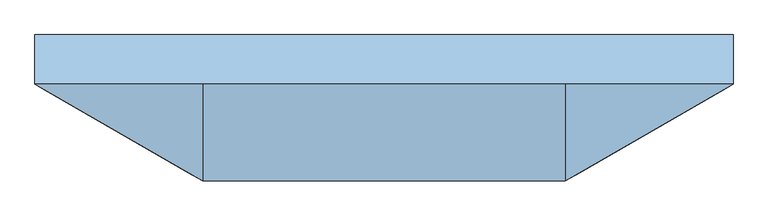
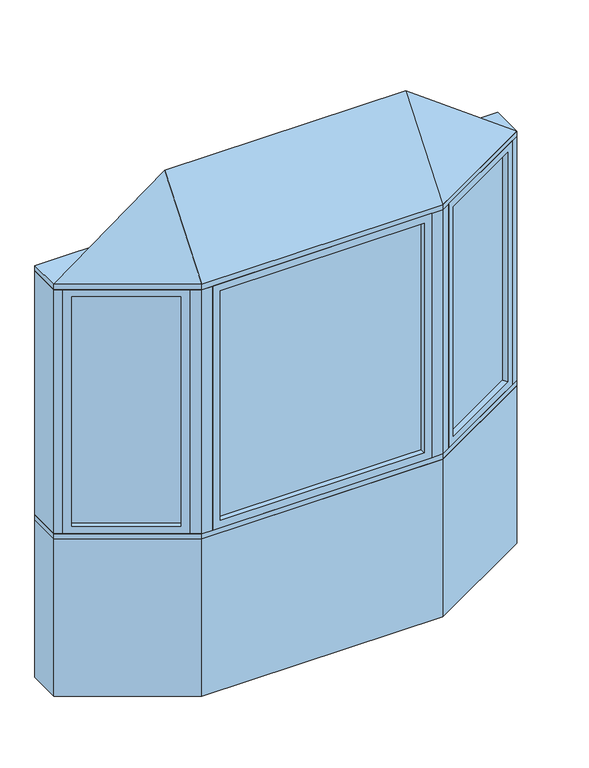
"""IFC4 building model written with IfcOpenShell, lengths in millimetres: window geometry, Pollard_Windows_Tudor Casement Bows and Bays : AML-BAY 30 AFR0612-10-500."""

from ifc_helpers import new_model, si_unit, frame, origin, origin_with_axes, place, context, project, spatial, polyline, outline, extrude, faceted_brep, source, transform, mapped, element, save


def window_daee31c8(model_context):
    return source(origin(), model_context, "Body", "SolidModel", [
        extrude(outline(polyline([(1013.112102, -82.0482469), (610.2320119, -314.6511754), (607.6920119, -310.2517664), (1010.572102, -77.6488379), (1013.112102, -82.0482469)])), frame((0.0, 0.0, 823.1628), z_axis=(0.0, 0.0, 1.0), x_axis=(1.0, 0.0, 0.0)), (0.0, 0.0, 1.0), 1153.6704),
        faceted_brep([(1002.1135794, -88.3982469, 835.8628), (1014.8135794, -110.3952922, 835.8628), (1014.8135794, -110.3952922, 1964.1332), (1002.1135794, -88.3982469, 1964.1332), (1010.572102, -77.6488379, 823.1628), (1013.112102, -82.0482469, 823.1628), (1013.112102, -82.0482469, 1976.8332), (1010.572102, -77.6488379, 1976.8332), (986.8735794, -62.0017926, 835.8628), (999.5735794, -83.9988379, 835.8628), (999.5735794, -83.9988379, 1964.1332), (986.8735794, -62.0017926, 1964.1332), (1045.8734073, -92.4628922, 799.998), (1017.9334073, -44.0693926, 799.998), (1017.9334073, -44.0693926, 1999.998), (1045.8734073, -92.4628922, 1999.998), (633.9305346, -330.2982207, 1964.1332), (621.2305346, -308.3011754, 1964.1332), (610.2320119, -314.6511754, 1976.8332), (607.6920119, -310.2517664, 1976.8332), (618.6905346, -303.9017664, 1964.1332), (605.9905346, -281.9047211, 1964.1332), (574.9307067, -299.8371211, 1999.998), (602.8707067, -348.2306207, 1999.998), (633.9305346, -330.2982207, 835.8628), (621.2305346, -308.3011754, 835.8628), (610.2320119, -314.6511754, 823.1628), (607.6920119, -310.2517664, 823.1628), (618.6905346, -303.9017664, 835.8628), (605.9905346, -281.9047211, 835.8628), (574.9307067, -299.8371211, 799.998), (602.8707067, -348.2306207, 799.998)], [[[0, 1, 2, 3]], [[4, 5, 6, 7]], [[8, 9, 10, 11]], [[12, 13, 14, 15]], [[3, 2, 16, 17]], [[7, 6, 18, 19]], [[11, 10, 20, 21]], [[15, 14, 22, 23]], [[17, 16, 24, 25]], [[19, 18, 26, 27]], [[21, 20, 28, 29]], [[23, 22, 30, 31]], [[25, 24, 1, 0]], [[5, 26, 18, 6], [3, 17, 25, 0]], [[27, 26, 5, 4]], [[7, 19, 27, 4], [9, 28, 20, 10]], [[29, 28, 9, 8]], [[13, 30, 22, 14], [11, 21, 29, 8]], [[31, 30, 13, 12]], [[15, 23, 31, 12], [1, 24, 16, 2]]]),
        extrude(outline(polyline([(-610.2320119, -314.6511754), (-1013.112102, -82.0482469), (-1010.572102, -77.6488379), (-607.6920119, -310.2517664), (-610.2320119, -314.6511754)])), frame((0.0, 0.0, 823.1628), z_axis=(0.0, 0.0, 1.0), x_axis=(1.0, 0.0, 0.0)), (0.0, 0.0, 1.0), 1153.6704),
        faceted_brep([(-618.6905346, -303.9017664, 1964.1332), (-605.9905346, -281.9047211, 1964.1332), (-605.9905346, -281.9047211, 835.8628), (-618.6905346, -303.9017664, 835.8628), (-610.2320119, -314.6511754, 1976.8332), (-607.6920119, -310.2517664, 1976.8332), (-607.6920119, -310.2517664, 823.1628), (-610.2320119, -314.6511754, 823.1628), (-633.9305346, -330.2982207, 1964.1332), (-621.2305346, -308.3011754, 1964.1332), (-621.2305346, -308.3011754, 835.8628), (-633.9305346, -330.2982207, 835.8628), (-574.9307067, -299.8371211, 1999.998), (-602.8707067, -348.2306207, 1999.998), (-602.8707067, -348.2306207, 799.998), (-574.9307067, -299.8371211, 799.998), (-986.8735794, -62.0017926, 835.8628), (-999.5735794, -83.9988379, 835.8628), (-1010.572102, -77.6488379, 823.1628), (-1013.112102, -82.0482469, 823.1628), (-1002.1135794, -88.3982469, 835.8628), (-1014.8135794, -110.3952922, 835.8628), (-1045.8734073, -92.4628922, 799.998), (-1017.9334073, -44.0693926, 799.998), (-986.8735794, -62.0017926, 1964.1332), (-999.5735794, -83.9988379, 1964.1332), (-1010.572102, -77.6488379, 1976.8332), (-1013.112102, -82.0482469, 1976.8332), (-1002.1135794, -88.3982469, 1964.1332), (-1014.8135794, -110.3952922, 1964.1332), (-1045.8734073, -92.4628922, 1999.998), (-1017.9334073, -44.0693926, 1999.998)], [[[0, 1, 2, 3]], [[4, 5, 6, 7]], [[8, 9, 10, 11]], [[12, 13, 14, 15]], [[3, 2, 16, 17]], [[7, 6, 18, 19]], [[11, 10, 20, 21]], [[15, 14, 22, 23]], [[17, 16, 24, 25]], [[19, 18, 26, 27]], [[21, 20, 28, 29]], [[23, 22, 30, 31]], [[15, 23, 31, 12], [1, 24, 16, 2]], [[25, 24, 1, 0]], [[5, 26, 18, 6], [3, 17, 25, 0]], [[27, 26, 5, 4]], [[7, 19, 27, 4], [9, 28, 20, 10]], [[29, 28, 9, 8]], [[13, 30, 22, 14], [11, 21, 29, 8]], [[31, 30, 13, 12]]]),
        extrude(outline(polyline([(486.4046365, -347.8306207), (-486.4046365, -347.8306207), (-486.4046365, -342.7506207), (486.4046365, -342.7506207), (486.4046365, -347.8306207)])), frame((0.0, 0.0, 823.1628), z_axis=(0.0, 0.0, 1.0), x_axis=(1.0, 0.0, 0.0)), (0.0, 0.0, 1.0), 1153.6704),
        faceted_brep([(473.7046365, -347.8306207, 835.8628), (473.7046365, -373.2306207, 835.8628), (473.7046365, -373.2306207, 1964.1332), (473.7046365, -347.8306207, 1964.1332), (486.4046365, -342.7506207, 823.1628), (486.4046365, -347.8306207, 823.1628), (486.4046365, -347.8306207, 1976.8332), (486.4046365, -342.7506207, 1976.8332), (473.7046365, -317.3506207, 835.8628), (473.7046365, -342.7506207, 835.8628), (473.7046365, -342.7506207, 1964.1332), (473.7046365, -317.3506207, 1964.1332), (509.5694365, -373.2306207, 799.998), (509.5694365, -317.3506207, 799.998), (509.5694365, -317.3506207, 1999.998), (509.5694365, -373.2306207, 1999.998), (-473.7046365, -373.2306207, 1964.1332), (-473.7046365, -347.8306207, 1964.1332), (-486.4046365, -347.8306207, 1976.8332), (-486.4046365, -342.7506207, 1976.8332), (-473.7046365, -342.7506207, 1964.1332), (-473.7046365, -317.3506207, 1964.1332), (-509.5694365, -317.3506207, 1999.998), (-509.5694365, -373.2306207, 1999.998), (-473.7046365, -373.2306207, 835.8628), (-473.7046365, -347.8306207, 835.8628), (-486.4046365, -347.8306207, 823.1628), (-486.4046365, -342.7506207, 823.1628), (-473.7046365, -342.7506207, 835.8628), (-473.7046365, -317.3506207, 835.8628), (-509.5694365, -317.3506207, 799.998), (-509.5694365, -373.2306207, 799.998)], [[[0, 1, 2, 3]], [[4, 5, 6, 7]], [[8, 9, 10, 11]], [[12, 13, 14, 15]], [[3, 2, 16, 17]], [[7, 6, 18, 19]], [[11, 10, 20, 21]], [[15, 14, 22, 23]], [[17, 16, 24, 25]], [[19, 18, 26, 27]], [[21, 20, 28, 29]], [[23, 22, 30, 31]], [[15, 23, 31, 12], [1, 24, 16, 2]], [[25, 24, 1, 0]], [[5, 26, 18, 6], [3, 17, 25, 0]], [[27, 26, 5, 4]], [[7, 19, 27, 4], [9, 28, 20, 10]], [[29, 28, 9, 8]], [[13, 30, 22, 14], [11, 21, 29, 8]], [[31, 30, 13, 12]]]),
        faceted_brep([(1076.5, -74.7806207, 2025.398), (559.5694365, -373.2306207, 2025.398), (-559.5694365, -373.2306207, 2025.398), (-1076.5, -74.7806207, 2025.398), (-559.5694365, -74.7806207, 2406.398), (559.5694365, -74.7806207, 2406.398)], [[[0, 1, 2, 3]], [[3, 2, 4]], [[2, 1, 5, 4]], [[1, 0, 5]], [[0, 3, 4, 5]]]),
        extrude(outline(polyline([(-1076.5, 77.6193793), (1076.5, 77.6193793), (1076.5, -74.7806207), (559.5694365, -373.2306207), (-559.5694365, -373.2306207), (-1076.5, -74.7806207), (-1076.5, 77.6193793)])), frame((0.0, 0.0, 1999.998), z_axis=(0.0, 0.0, 1.0), x_axis=(1.0, 0.0, 0.0)), (0.0, 0.0, 1.0), 25.4),
        extrude(outline(polyline([(-1076.5, -74.7806207), (-1076.5, 77.6193793), (-1035.6645431, 77.6193793), (-1035.6645431, -74.7806207), (-1045.8734073, -92.4628922), (-1076.5, -74.7806207)])), frame((0.0, 0.0, 799.998), z_axis=(0.0, 0.0, 1.0), x_axis=(1.0, 0.0, 0.0)), (0.0, 0.0, 1.0), 1200.0),
        extrude(outline(polyline([(1076.5, 77.6193793), (1076.5, -74.7806207), (1045.8734073, -92.4628922), (1035.6645431, -74.7806207), (1035.6645431, 77.6193793), (1076.5, 77.6193793)])), frame((0.0, 0.0, 799.998), z_axis=(0.0, 0.0, 1.0), x_axis=(1.0, 0.0, 0.0)), (0.0, 0.0, 1.0), 1200.0),
        extrude(outline(polyline([(559.5694365, -373.2306207), (509.5694365, -373.2306207), (509.5694365, -323.2306207), (546.1719769, -323.2306207), (577.8707067, -304.9293505), (602.8707067, -348.2306207), (559.5694365, -373.2306207)])), frame((0.0, 0.0, 799.998), z_axis=(0.0, 0.0, 1.0), x_axis=(1.0, 0.0, 0.0)), (0.0, 0.0, 1.0), 1200.0),
        extrude(outline(polyline([(-559.5694365, -373.2306207), (-602.8707067, -348.2306207), (-577.8707067, -304.9293505), (-546.1719769, -323.2306207), (-509.5694365, -323.2306207), (-509.5694365, -373.2306207), (-559.5694365, -373.2306207)])), frame((0.0, 0.0, 799.998), z_axis=(0.0, 0.0, 1.0), x_axis=(1.0, 0.0, 0.0)), (0.0, 0.0, 1.0), 1200.0),
        extrude(outline(polyline([(-559.5694365, -373.2306207), (-1076.5, -74.7806207), (-1076.5, 77.6193793), (-1035.6645431, 77.6193793), (-518.7339796, -220.8306207), (518.7339796, -220.8306207), (1035.6645431, 77.6193793), (1076.5, 77.6193793), (1076.5, -74.7806207), (559.5694365, -373.2306207), (-559.5694365, -373.2306207)])), frame((0.0, 0.0, 774.598), z_axis=(0.0, 0.0, 1.0), x_axis=(1.0, 0.0, 0.0)), (0.0, 0.0, 1.0), 25.4),
        extrude(outline(polyline([(-1076.5, -74.7806207), (-1076.5, 77.6193793), (-1035.6645431, 77.6193793), (-518.7339796, -220.8306207), (518.7339796, -220.8306207), (1035.6645431, 77.6193793), (1076.5, 77.6193793), (1076.5, -74.7806207), (559.5694365, -373.2306207), (-559.5694365, -373.2306207), (-1076.5, -74.7806207)])), origin_with_axes(), (0.0, 0.0, 1.0), 774.598),
    ])


if __name__ == "__main__":
    model = new_model("IFC4")
    model_context = context("Model", 3, world=origin())
    ifc_project = project(units=[si_unit("LENGTHUNIT", "METRE", prefix="MILLI")], contexts=[model_context])
    site = spatial("IfcSite", under=ifc_project)
    building = spatial("IfcBuilding", under=site)
    placement = place(None, origin())
    window_shape = window_daee31c8(model_context)
    element("IfcWindow", 1, ObjectType="Pollard_Windows_Tudor Casement Bows and Bays : AML-BAY 30 AFR0612-10-500", at=placement, inside=building, context=model_context, shape_type="MappedRepresentation", body=[
        mapped(window_shape, transform((0.0, 0.0, 0.0), x_axis=(1.0, 0.0, 0.0), y_axis=(0.0, 1.0, 0.0), z_axis=(0.0, 0.0, 1.0))),
    ])
    save(model, "model.ifc")
